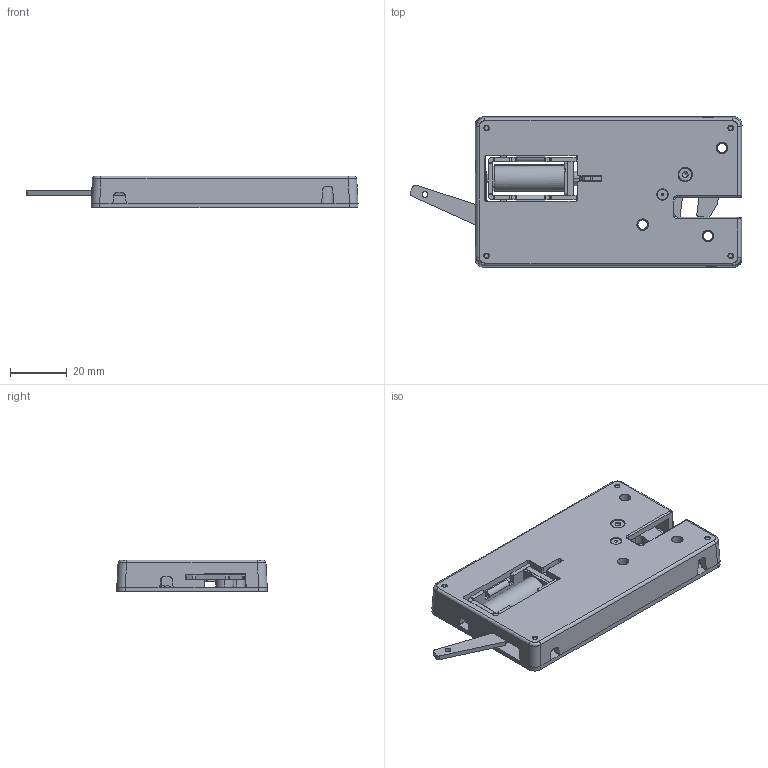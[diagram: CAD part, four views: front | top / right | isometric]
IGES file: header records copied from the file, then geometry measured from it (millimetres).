
Start section: SolidWorks IGES file using analytic representation for surfaces
Global section: file name: L:\カタログ\web用3Dデータ\NL0510\iges_NL0510\NL0510.IGS; native system: SolidWorks 2023; preprocessor: SolidWorks 2023; author: yakata; date: 240322.142153; units: millimetre
Bounding box: 116.95 x 53 x 11.2 mm (x, y, z)
Surface area: 29743.2 mm2 (no closed solid volume)
Topology: 0 solids, 0 shells, 871 faces, 10185 edges, 10173 vertices
Faces by surface type: revolution 445, bspline 426
